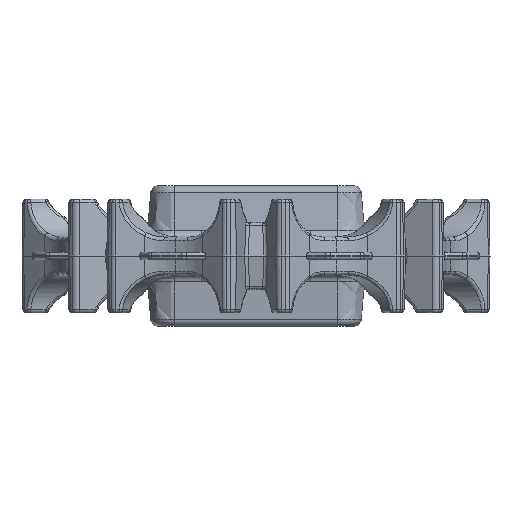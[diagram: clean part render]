
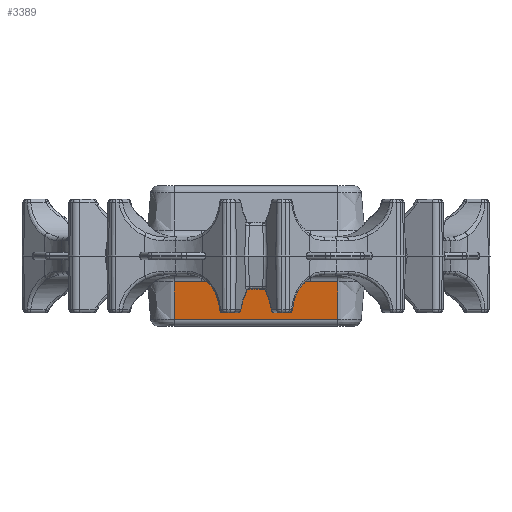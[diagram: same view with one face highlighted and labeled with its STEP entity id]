
A CAD part, left-side view. The second image highlights one B-rep face of the part: STEP entity #3389.
In plain terms, the highlighted planar face has unit normal (-0.996, 0, -0.087).
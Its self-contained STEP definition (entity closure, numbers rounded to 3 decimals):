
#1776=FACE_OUTER_BOUND('',#7625,.T.);
#3389=ADVANCED_FACE('',(#1776),#4966,.F.);
#4966=PLANE('',#25272);
#6630=B_SPLINE_CURVE_WITH_KNOTS('',3,(#35855,#35856,#35857,#35858,#35859,
#35860,#35861),.UNSPECIFIED.,.F.,.F.,(4,3,4),(0.,0.63,1.),
 .UNSPECIFIED.);
#6631=B_SPLINE_CURVE_WITH_KNOTS('',3,(#35865,#35866,#35867,#35868,#35869,
#35870,#35871),.UNSPECIFIED.,.F.,.F.,(4,3,4),(0.,0.37,1.),
 .UNSPECIFIED.);
#7625=EDGE_LOOP('',(#9639,#9640,#9641,#9642,#9643,#9644,#9645,#9646));
#9639=ORIENTED_EDGE('',*,*,#19257,.F.);
#9640=ORIENTED_EDGE('',*,*,#19258,.F.);
#9641=ORIENTED_EDGE('',*,*,#19259,.F.);
#9642=ORIENTED_EDGE('',*,*,#19260,.F.);
#9643=ORIENTED_EDGE('',*,*,#19261,.F.);
#9644=ORIENTED_EDGE('',*,*,#19262,.F.);
#9645=ORIENTED_EDGE('',*,*,#19254,.T.);
#9646=ORIENTED_EDGE('',*,*,#19263,.F.);
#17061=VERTEX_POINT('',#35808);
#17062=VERTEX_POINT('',#35809);
#17063=VERTEX_POINT('',#35851);
#17064=VERTEX_POINT('',#35852);
#17065=VERTEX_POINT('',#35854);
#17066=VERTEX_POINT('',#35862);
#17067=VERTEX_POINT('',#35864);
#17068=VERTEX_POINT('',#35872);
#19254=EDGE_CURVE('',#17061,#17062,#22790,.T.);
#19257=EDGE_CURVE('',#17063,#17064,#22791,.T.);
#19258=EDGE_CURVE('',#17065,#17063,#22792,.T.);
#19259=EDGE_CURVE('',#17066,#17065,#6630,.T.);
#19260=EDGE_CURVE('',#17067,#17066,#22793,.T.);
#19261=EDGE_CURVE('',#17068,#17067,#6631,.T.);
#19262=EDGE_CURVE('',#17061,#17068,#22794,.T.);
#19263=EDGE_CURVE('',#17064,#17062,#22795,.T.);
#22790=LINE('',#35807,#24012);
#22791=LINE('',#35850,#24013);
#22792=LINE('',#35853,#24014);
#22793=LINE('',#35863,#24015);
#22794=LINE('',#35873,#24016);
#22795=LINE('',#35874,#24017);
#24012=VECTOR('',#28336,1.);
#24013=VECTOR('',#28337,1.);
#24014=VECTOR('',#28338,1.);
#24015=VECTOR('',#28339,1.);
#24016=VECTOR('',#28340,1.);
#24017=VECTOR('',#28341,1.);
#25272=AXIS2_PLACEMENT_3D('',#35875,#28342,#28343);
#28336=DIRECTION('',(0.087,0.,-0.996));
#28337=DIRECTION('',(0.087,0.,-0.996));
#28338=DIRECTION('',(0.,-1.,0.));
#28339=DIRECTION('',(0.,-1.,0.));
#28340=DIRECTION('',(0.,-1.,0.));
#28341=DIRECTION('',(0.,1.,0.));
#28342=DIRECTION('',(0.996,0.,0.087));
#28343=DIRECTION('',(-0.087,0.,0.996));
#35807=CARTESIAN_POINT('',(2964.244,1284.149,-18.674));
#35808=CARTESIAN_POINT('',(2963.208,1284.149,-6.826));
#35809=CARTESIAN_POINT('',(2964.069,1284.149,-16.674));
#35850=CARTESIAN_POINT('',(2964.244,1241.009,-18.674));
#35851=CARTESIAN_POINT('',(2963.208,1241.009,-6.826));
#35852=CARTESIAN_POINT('',(2964.069,1241.009,-16.674));
#35853=CARTESIAN_POINT('',(2963.208,1241.009,-6.826));
#35854=CARTESIAN_POINT('',(2963.208,1248.183,-6.826));
#35855=CARTESIAN_POINT('',(2963.178,1252.236,-6.489));
#35856=CARTESIAN_POINT('',(2963.178,1251.381,-6.489));
#35857=CARTESIAN_POINT('',(2963.19,1250.532,-6.623));
#35858=CARTESIAN_POINT('',(2963.199,1249.683,-6.723));
#35859=CARTESIAN_POINT('',(2963.204,1249.185,-6.782));
#35860=CARTESIAN_POINT('',(2963.208,1248.684,-6.826));
#35861=CARTESIAN_POINT('',(2963.208,1248.183,-6.826));
#35862=CARTESIAN_POINT('',(2963.178,1252.236,-6.489));
#35863=CARTESIAN_POINT('',(2963.178,1241.009,-6.489));
#35864=CARTESIAN_POINT('',(2963.178,1272.922,-6.489));
#35865=CARTESIAN_POINT('',(2963.208,1276.975,-6.826));
#35866=CARTESIAN_POINT('',(2963.208,1276.474,-6.826));
#35867=CARTESIAN_POINT('',(2963.204,1275.973,-6.782));
#35868=CARTESIAN_POINT('',(2963.199,1275.475,-6.723));
#35869=CARTESIAN_POINT('',(2963.19,1274.627,-6.623));
#35870=CARTESIAN_POINT('',(2963.178,1273.777,-6.489));
#35871=CARTESIAN_POINT('',(2963.178,1272.922,-6.489));
#35872=CARTESIAN_POINT('',(2963.208,1276.975,-6.826));
#35873=CARTESIAN_POINT('',(2963.208,1241.009,-6.826));
#35874=CARTESIAN_POINT('',(2964.069,1262.579,-16.674));
#35875=CARTESIAN_POINT('',(2964.244,1262.579,-18.674));
